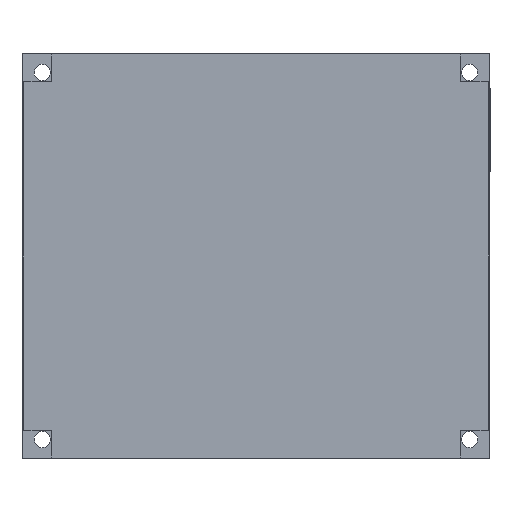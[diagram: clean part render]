
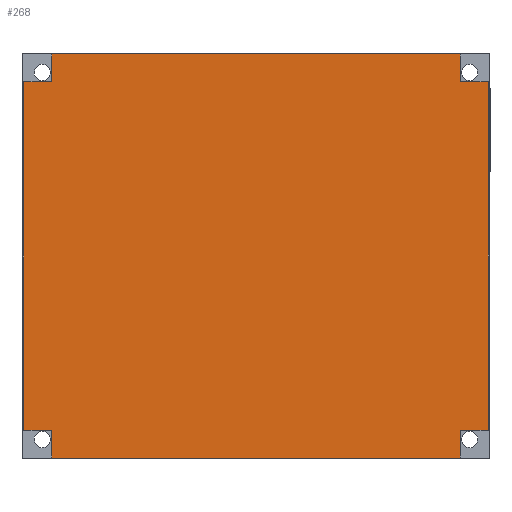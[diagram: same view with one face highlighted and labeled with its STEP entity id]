
A CAD part, front view. The second image highlights one B-rep face of the part: STEP entity #268.
In plain terms, the highlighted planar face has unit normal (0, -1, 0).
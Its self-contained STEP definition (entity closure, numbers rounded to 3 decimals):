
#40 = DIRECTION ( 'NONE',  ( 1., 0., 0. ) ) ;
#52 = ORIENTED_EDGE ( 'NONE', *, *, #464, .T. ) ;
#71 = VECTOR ( 'NONE', #1031, 1000. ) ;
#77 = CARTESIAN_POINT ( 'NONE',  ( 50., -0.15, 81. ) ) ;
#86 = VERTEX_POINT ( 'NONE', #964 ) ;
#92 = DIRECTION ( 'NONE',  ( -1., 0., 0. ) ) ;
#94 = CARTESIAN_POINT ( 'NONE',  ( 44., -0.15, 0. ) ) ;
#109 = VERTEX_POINT ( 'NONE', #584 ) ;
#115 = EDGE_CURVE ( 'NONE', #910, #109, #1079, .T. ) ;
#116 = LINE ( 'NONE', #620, #877 ) ;
#146 = CARTESIAN_POINT ( 'NONE',  ( -50., -0.15, 81. ) ) ;
#166 = ORIENTED_EDGE ( 'NONE', *, *, #329, .T. ) ;
#167 = DIRECTION ( 'NONE',  ( 0., 0., -1. ) ) ;
#191 = LINE ( 'NONE', #94, #1250 ) ;
#220 = CARTESIAN_POINT ( 'NONE',  ( 50., -0.15, 81. ) ) ;
#221 = EDGE_CURVE ( 'NONE', #628, #459, #1310, .T. ) ;
#222 = FACE_OUTER_BOUND ( 'NONE', #1065, .T. ) ;
#240 = VECTOR ( 'NONE', #285, 1000. ) ;
#247 = CARTESIAN_POINT ( 'NONE',  ( -50., -0.15, 6. ) ) ;
#252 = CARTESIAN_POINT ( 'NONE',  ( 44., -0.15, 87. ) ) ;
#268 = ADVANCED_FACE ( 'NONE', ( #222 ), #733, .T. ) ;
#285 = DIRECTION ( 'NONE',  ( 0., 0., -1. ) ) ;
#297 = EDGE_CURVE ( 'NONE', #459, #707, #627, .T. ) ;
#307 = DIRECTION ( 'NONE',  ( 1., 0., 0. ) ) ;
#325 = VECTOR ( 'NONE', #92, 1000. ) ;
#329 = EDGE_CURVE ( 'NONE', #109, #945, #938, .T. ) ;
#339 = ORIENTED_EDGE ( 'NONE', *, *, #115, .T. ) ;
#345 = EDGE_CURVE ( 'NONE', #1330, #910, #116, .T. ) ;
#354 = DIRECTION ( 'NONE',  ( -1., 0., 0. ) ) ;
#376 = VECTOR ( 'NONE', #40, 1000. ) ;
#390 = EDGE_CURVE ( 'NONE', #945, #1009, #761, .T. ) ;
#391 = CARTESIAN_POINT ( 'NONE',  ( -44., -0.15, 81. ) ) ;
#394 = CARTESIAN_POINT ( 'NONE',  ( -50., -0.15, 81. ) ) ;
#413 = VERTEX_POINT ( 'NONE', #955 ) ;
#434 = VERTEX_POINT ( 'NONE', #985 ) ;
#436 = DIRECTION ( 'NONE',  ( 1., 0., 0. ) ) ;
#459 = VERTEX_POINT ( 'NONE', #1295 ) ;
#464 = EDGE_CURVE ( 'NONE', #434, #611, #1186, .T. ) ;
#473 = ORIENTED_EDGE ( 'NONE', *, *, #679, .T. ) ;
#488 = ORIENTED_EDGE ( 'NONE', *, *, #390, .T. ) ;
#509 = ORIENTED_EDGE ( 'NONE', *, *, #1151, .T. ) ;
#516 = DIRECTION ( 'NONE',  ( 0., 0., 1. ) ) ;
#525 = CARTESIAN_POINT ( 'NONE',  ( 0., -0.15, 43.5 ) ) ;
#528 = CARTESIAN_POINT ( 'NONE',  ( -44., -0.15, 0. ) ) ;
#583 = EDGE_CURVE ( 'NONE', #1009, #434, #920, .T. ) ;
#584 = CARTESIAN_POINT ( 'NONE',  ( -44., -0.15, 87. ) ) ;
#593 = ORIENTED_EDGE ( 'NONE', *, *, #583, .T. ) ;
#610 = LINE ( 'NONE', #622, #325 ) ;
#611 = VERTEX_POINT ( 'NONE', #948 ) ;
#620 = CARTESIAN_POINT ( 'NONE',  ( 44., -0.15, 87. ) ) ;
#622 = CARTESIAN_POINT ( 'NONE',  ( 44., -0.15, 81. ) ) ;
#627 = LINE ( 'NONE', #77, #71 ) ;
#628 = VERTEX_POINT ( 'NONE', #725 ) ;
#633 = DIRECTION ( 'NONE',  ( 0., 0., 1. ) ) ;
#655 = VECTOR ( 'NONE', #1107, 1000. ) ;
#656 = ORIENTED_EDGE ( 'NONE', *, *, #221, .T. ) ;
#679 = EDGE_CURVE ( 'NONE', #86, #628, #191, .T. ) ;
#682 = ORIENTED_EDGE ( 'NONE', *, *, #297, .T. ) ;
#707 = VERTEX_POINT ( 'NONE', #220 ) ;
#718 = LINE ( 'NONE', #528, #776 ) ;
#725 = CARTESIAN_POINT ( 'NONE',  ( 44., -0.15, 6. ) ) ;
#733 = PLANE ( 'NONE',  #788 ) ;
#761 = LINE ( 'NONE', #146, #937 ) ;
#776 = VECTOR ( 'NONE', #307, 1000. ) ;
#788 = AXIS2_PLACEMENT_3D ( 'NONE', #525, #1139, #436 ) ;
#800 = CARTESIAN_POINT ( 'NONE',  ( 44., -0.15, 6. ) ) ;
#804 = ORIENTED_EDGE ( 'NONE', *, *, #345, .T. ) ;
#812 = VECTOR ( 'NONE', #354, 1000. ) ;
#873 = EDGE_CURVE ( 'NONE', #611, #413, #954, .T. ) ;
#877 = VECTOR ( 'NONE', #633, 1000. ) ;
#890 = CARTESIAN_POINT ( 'NONE',  ( -44., -0.15, 81. ) ) ;
#891 = ORIENTED_EDGE ( 'NONE', *, *, #873, .T. ) ;
#910 = VERTEX_POINT ( 'NONE', #252 ) ;
#920 = LINE ( 'NONE', #1331, #1259 ) ;
#937 = VECTOR ( 'NONE', #1064, 1000. ) ;
#938 = LINE ( 'NONE', #391, #240 ) ;
#945 = VERTEX_POINT ( 'NONE', #890 ) ;
#948 = CARTESIAN_POINT ( 'NONE',  ( -44., -0.15, 6. ) ) ;
#954 = LINE ( 'NONE', #1081, #1272 ) ;
#955 = CARTESIAN_POINT ( 'NONE',  ( -44., -0.15, 0. ) ) ;
#964 = CARTESIAN_POINT ( 'NONE',  ( 44., -0.15, 0. ) ) ;
#973 = CARTESIAN_POINT ( 'NONE',  ( 44., -0.15, 81. ) ) ;
#985 = CARTESIAN_POINT ( 'NONE',  ( -50., -0.15, 6. ) ) ;
#1009 = VERTEX_POINT ( 'NONE', #394 ) ;
#1031 = DIRECTION ( 'NONE',  ( 0., 0., 1. ) ) ;
#1064 = DIRECTION ( 'NONE',  ( -1., 0., 0. ) ) ;
#1065 = EDGE_LOOP ( 'NONE', ( #488, #593, #52, #891, #509, #473, #656, #682, #1170, #804, #339, #166 ) ) ;
#1067 = EDGE_CURVE ( 'NONE', #707, #1330, #610, .T. ) ;
#1079 = LINE ( 'NONE', #1086, #812 ) ;
#1081 = CARTESIAN_POINT ( 'NONE',  ( -44., -0.15, 6. ) ) ;
#1086 = CARTESIAN_POINT ( 'NONE',  ( -44., -0.15, 87. ) ) ;
#1107 = DIRECTION ( 'NONE',  ( 1., 0., 0. ) ) ;
#1139 = DIRECTION ( 'NONE',  ( 0., -1., 0. ) ) ;
#1151 = EDGE_CURVE ( 'NONE', #413, #86, #718, .T. ) ;
#1170 = ORIENTED_EDGE ( 'NONE', *, *, #1067, .T. ) ;
#1186 = LINE ( 'NONE', #247, #376 ) ;
#1250 = VECTOR ( 'NONE', #516, 1000. ) ;
#1256 = DIRECTION ( 'NONE',  ( 0., 0., -1. ) ) ;
#1259 = VECTOR ( 'NONE', #167, 1000. ) ;
#1272 = VECTOR ( 'NONE', #1256, 1000. ) ;
#1295 = CARTESIAN_POINT ( 'NONE',  ( 50., -0.15, 6. ) ) ;
#1310 = LINE ( 'NONE', #800, #655 ) ;
#1330 = VERTEX_POINT ( 'NONE', #973 ) ;
#1331 = CARTESIAN_POINT ( 'NONE',  ( -50., -0.15, 81. ) ) ;
